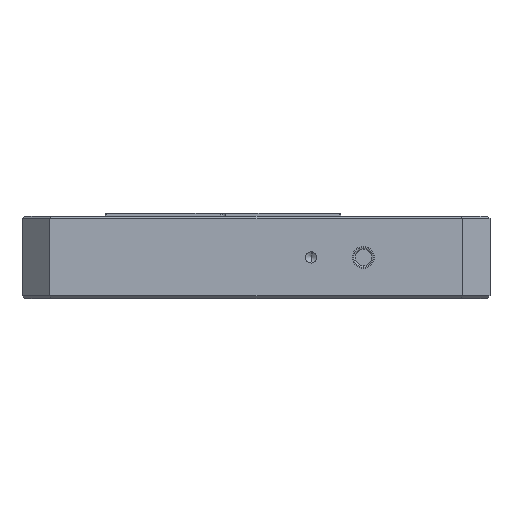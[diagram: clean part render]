
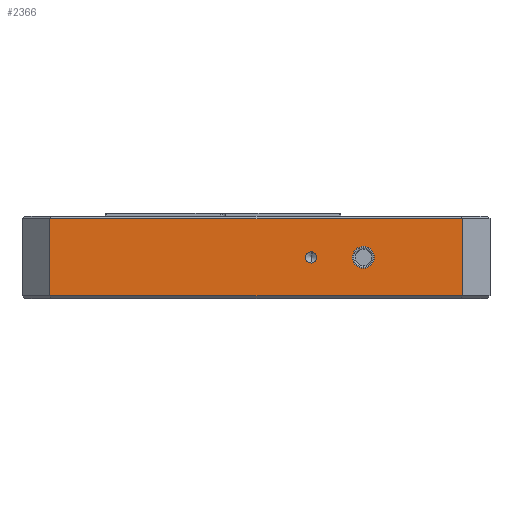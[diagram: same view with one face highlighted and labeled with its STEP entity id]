
A CAD part, left-side view. The second image highlights one B-rep face of the part: STEP entity #2366.
In plain terms, the highlighted planar face has unit normal (-1, 0, 0).
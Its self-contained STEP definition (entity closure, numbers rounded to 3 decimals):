
#38 = DIRECTION ( 'NONE',  ( 1., 0., 0. ) ) ;
#61 = CIRCLE ( 'NONE', #9501, 1.025 ) ;
#93 = EDGE_CURVE ( 'NONE', #3964, #4530, #3189, .T. ) ;
#520 = DIRECTION ( 'NONE',  ( -1., 0., 0. ) ) ;
#523 = DIRECTION ( 'NONE',  ( -1., 0., 0. ) ) ;
#544 = VECTOR ( 'NONE', #7585, 1000. ) ;
#638 = ORIENTED_EDGE ( 'NONE', *, *, #6199, .T. ) ;
#779 = CARTESIAN_POINT ( 'NONE',  ( -58.851, 35.431, 78.35 ) ) ;
#841 = ORIENTED_EDGE ( 'NONE', *, *, #7490, .T. ) ;
#1444 = DIRECTION ( 'NONE',  ( 0., 0., 1. ) ) ;
#1535 = EDGE_CURVE ( 'NONE', #8347, #10323, #4095, .T. ) ;
#1667 = LINE ( 'NONE', #14678, #544 ) ;
#1676 = CARTESIAN_POINT ( 'NONE',  ( -58.851, -21.569, 71.35 ) ) ;
#1902 = EDGE_LOOP ( 'NONE', ( #9977, #7947 ) ) ;
#1995 = CARTESIAN_POINT ( 'NONE',  ( -58.851, -12.069, 72.375 ) ) ;
#2363 = FACE_BOUND ( 'NONE', #3654, .T. ) ;
#2366 = ADVANCED_FACE ( 'NONE', ( #3544, #2363, #11868 ), #5950, .F. ) ;
#3153 = LINE ( 'NONE', #8914, #14224 ) ;
#3189 = LINE ( 'NONE', #779, #6411 ) ;
#3544 = FACE_BOUND ( 'NONE', #1902, .T. ) ;
#3654 = EDGE_LOOP ( 'NONE', ( #3909, #12931 ) ) ;
#3723 = ORIENTED_EDGE ( 'NONE', *, *, #8451, .T. ) ;
#3759 = VERTEX_POINT ( 'NONE', #4319 ) ;
#3896 = CARTESIAN_POINT ( 'NONE',  ( -58.851, -39.569, 78.35 ) ) ;
#3909 = ORIENTED_EDGE ( 'NONE', *, *, #10983, .F. ) ;
#3964 = VERTEX_POINT ( 'NONE', #3896 ) ;
#4095 = CIRCLE ( 'NONE', #8056, 1.025 ) ;
#4319 = CARTESIAN_POINT ( 'NONE',  ( -58.851, -21.569, 73. ) ) ;
#4530 = VERTEX_POINT ( 'NONE', #7910 ) ;
#4636 = EDGE_CURVE ( 'NONE', #10323, #8347, #61, .T. ) ;
#4857 = CARTESIAN_POINT ( 'NONE',  ( -58.851, 35.431, 64.35 ) ) ;
#4900 = CARTESIAN_POINT ( 'NONE',  ( -58.851, -21.569, 69.7 ) ) ;
#5949 = AXIS2_PLACEMENT_3D ( 'NONE', #9222, #38, #11948 ) ;
#5950 = PLANE ( 'NONE',  #5949 ) ;
#6199 = EDGE_CURVE ( 'NONE', #4530, #14843, #1667, .T. ) ;
#6411 = VECTOR ( 'NONE', #12546, 1000. ) ;
#7140 = CARTESIAN_POINT ( 'NONE',  ( -58.851, -39.569, 64.35 ) ) ;
#7151 = DIRECTION ( 'NONE',  ( 0., 0., 1. ) ) ;
#7490 = EDGE_CURVE ( 'NONE', #14843, #8145, #3153, .T. ) ;
#7585 = DIRECTION ( 'NONE',  ( 0., 0., -1. ) ) ;
#7597 = CARTESIAN_POINT ( 'NONE',  ( -58.851, -21.569, 71.35 ) ) ;
#7910 = CARTESIAN_POINT ( 'NONE',  ( -58.851, 35.431, 78.35 ) ) ;
#7947 = ORIENTED_EDGE ( 'NONE', *, *, #4636, .F. ) ;
#8056 = AXIS2_PLACEMENT_3D ( 'NONE', #12867, #9128, #7151 ) ;
#8145 = VERTEX_POINT ( 'NONE', #7140 ) ;
#8211 = CARTESIAN_POINT ( 'NONE',  ( -58.851, -39.569, 78.85 ) ) ;
#8347 = VERTEX_POINT ( 'NONE', #1995 ) ;
#8451 = EDGE_CURVE ( 'NONE', #8145, #3964, #13197, .T. ) ;
#8850 = DIRECTION ( 'NONE',  ( 0., 0., 1. ) ) ;
#8902 = CARTESIAN_POINT ( 'NONE',  ( -58.851, -12.069, 70.325 ) ) ;
#8914 = CARTESIAN_POINT ( 'NONE',  ( -58.851, 40.431, 64.35 ) ) ;
#9128 = DIRECTION ( 'NONE',  ( -1., 0., 0. ) ) ;
#9222 = CARTESIAN_POINT ( 'NONE',  ( -58.851, 40.431, 78.85 ) ) ;
#9501 = AXIS2_PLACEMENT_3D ( 'NONE', #13096, #14421, #9524 ) ;
#9524 = DIRECTION ( 'NONE',  ( 0., 0., 1. ) ) ;
#9748 = AXIS2_PLACEMENT_3D ( 'NONE', #1676, #520, #1444 ) ;
#9869 = EDGE_CURVE ( 'NONE', #15129, #3759, #12978, .T. ) ;
#9977 = ORIENTED_EDGE ( 'NONE', *, *, #1535, .F. ) ;
#10243 = DIRECTION ( 'NONE',  ( 0., -1., 0. ) ) ;
#10323 = VERTEX_POINT ( 'NONE', #8902 ) ;
#10707 = DIRECTION ( 'NONE',  ( 0., 0., 1. ) ) ;
#10983 = EDGE_CURVE ( 'NONE', #3759, #15129, #11565, .T. ) ;
#11565 = CIRCLE ( 'NONE', #15063, 1.65 ) ;
#11868 = FACE_OUTER_BOUND ( 'NONE', #12804, .T. ) ;
#11948 = DIRECTION ( 'NONE',  ( 0., 1., 0. ) ) ;
#12546 = DIRECTION ( 'NONE',  ( 0., 1., 0. ) ) ;
#12804 = EDGE_LOOP ( 'NONE', ( #638, #841, #3723, #13535 ) ) ;
#12867 = CARTESIAN_POINT ( 'NONE',  ( -58.851, -12.069, 71.35 ) ) ;
#12931 = ORIENTED_EDGE ( 'NONE', *, *, #9869, .F. ) ;
#12978 = CIRCLE ( 'NONE', #9748, 1.65 ) ;
#13096 = CARTESIAN_POINT ( 'NONE',  ( -58.851, -12.069, 71.35 ) ) ;
#13197 = LINE ( 'NONE', #8211, #13425 ) ;
#13425 = VECTOR ( 'NONE', #10707, 1000. ) ;
#13535 = ORIENTED_EDGE ( 'NONE', *, *, #93, .T. ) ;
#14224 = VECTOR ( 'NONE', #10243, 1000. ) ;
#14421 = DIRECTION ( 'NONE',  ( -1., 0., 0. ) ) ;
#14678 = CARTESIAN_POINT ( 'NONE',  ( -58.851, 35.431, 78.85 ) ) ;
#14843 = VERTEX_POINT ( 'NONE', #4857 ) ;
#15063 = AXIS2_PLACEMENT_3D ( 'NONE', #7597, #523, #8850 ) ;
#15129 = VERTEX_POINT ( 'NONE', #4900 ) ;
